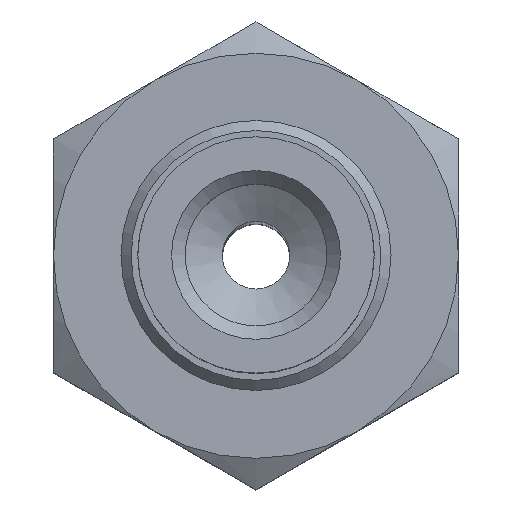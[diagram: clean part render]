
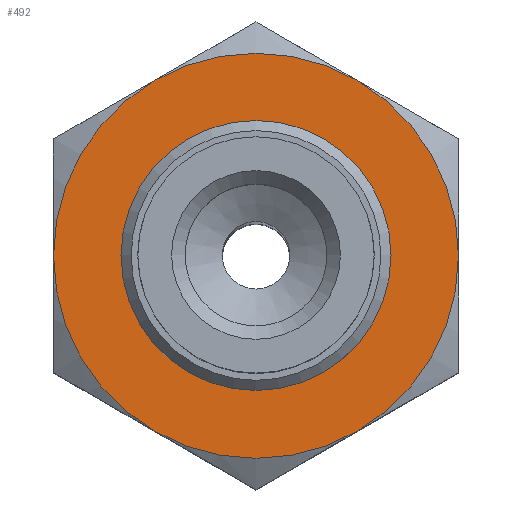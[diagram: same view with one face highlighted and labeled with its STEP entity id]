
A CAD part, top view. The second image highlights one B-rep face of the part: STEP entity #492.
In plain terms, the highlighted planar face has unit normal (0, 0, 1).
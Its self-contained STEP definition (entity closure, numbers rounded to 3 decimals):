
#492=ADVANCED_FACE('',(#705,#706),#707,.T.);
#705=FACE_BOUND('',#1041,.T.);
#706=FACE_OUTER_BOUND('',#1042,.T.);
#707=PLANE('',#1043);
#1041=EDGE_LOOP('',(#1538));
#1042=EDGE_LOOP('',(#1539,#1540,#1541,#1542,#1543,#1544));
#1043=AXIS2_PLACEMENT_3D('',#1545,#1546,#1547);
#1538=ORIENTED_EDGE('',*,*,#2135,.T.);
#1539=ORIENTED_EDGE('',*,*,#2136,.T.);
#1540=ORIENTED_EDGE('',*,*,#2137,.T.);
#1541=ORIENTED_EDGE('',*,*,#2101,.T.);
#1542=ORIENTED_EDGE('',*,*,#2123,.T.);
#1543=ORIENTED_EDGE('',*,*,#2138,.T.);
#1544=ORIENTED_EDGE('',*,*,#2133,.T.);
#1545=CARTESIAN_POINT('',(-6.928,-6.0,3.0));
#1546=DIRECTION('',(0.0,0.0,1.0));
#1547=DIRECTION('',(1.0,0.0,0.0));
#2101=EDGE_CURVE('',#2351,#2342,#2352,.T.);
#2123=EDGE_CURVE('',#2342,#2388,#2390,.T.);
#2133=EDGE_CURVE('',#2366,#2357,#2403,.T.);
#2135=EDGE_CURVE('',#2405,#2405,#2406,.T.);
#2136=EDGE_CURVE('',#2357,#2384,#2407,.T.);
#2137=EDGE_CURVE('',#2384,#2351,#2408,.T.);
#2138=EDGE_CURVE('',#2388,#2366,#2409,.T.);
#2342=VERTEX_POINT('',#2707);
#2351=VERTEX_POINT('',#2729);
#2352=CIRCLE('',#2730,6.0);
#2357=VERTEX_POINT('',#2740);
#2366=VERTEX_POINT('',#2762);
#2384=VERTEX_POINT('',#2806);
#2388=VERTEX_POINT('',#2818);
#2390=CIRCLE('',#2824,6.0);
#2403=CIRCLE('',#2853,6.0);
#2405=VERTEX_POINT('',#2855);
#2406=CIRCLE('',#2856,3.925);
#2407=CIRCLE('',#2857,6.0);
#2408=CIRCLE('',#2858,6.0);
#2409=CIRCLE('',#2859,6.0);
#2707=CARTESIAN_POINT('',(-5.196,3.0,3.0));
#2729=CARTESIAN_POINT('',(0.,6.0,3.0));
#2730=AXIS2_PLACEMENT_3D('',#3316,#3317,#3318);
#2740=CARTESIAN_POINT('',(5.196,-3.0,3.0));
#2762=CARTESIAN_POINT('',(0.,-6.0,3.0));
#2806=CARTESIAN_POINT('',(5.196,3.0,3.0));
#2818=CARTESIAN_POINT('',(-5.196,-3.0,3.0));
#2824=AXIS2_PLACEMENT_3D('',#3329,#3330,#3331);
#2853=AXIS2_PLACEMENT_3D('',#3344,#3345,#3346);
#2855=CARTESIAN_POINT('',(3.925,0.0,3.0));
#2856=AXIS2_PLACEMENT_3D('',#3350,#3351,#3352);
#2857=AXIS2_PLACEMENT_3D('',#3353,#3354,#3355);
#2858=AXIS2_PLACEMENT_3D('',#3356,#3357,#3358);
#2859=AXIS2_PLACEMENT_3D('',#3359,#3360,#3361);
#3316=CARTESIAN_POINT('',(0.,0.0,3.0));
#3317=DIRECTION('',(0.0,0.,1.0));
#3318=DIRECTION('',(0.0,-1.0,0.));
#3329=CARTESIAN_POINT('',(0.,0.0,3.0));
#3330=DIRECTION('',(0.0,0.,1.0));
#3331=DIRECTION('',(0.0,-1.0,0.));
#3344=CARTESIAN_POINT('',(0.,0.0,3.0));
#3345=DIRECTION('',(0.0,0.,1.0));
#3346=DIRECTION('',(0.0,-1.0,0.));
#3350=CARTESIAN_POINT('',(0.0,0.0,3.0));
#3351=DIRECTION('',(0.0,0.0,-1.0));
#3352=DIRECTION('',(1.0,0.0,0.0));
#3353=CARTESIAN_POINT('',(0.,0.0,3.0));
#3354=DIRECTION('',(0.0,0.,1.0));
#3355=DIRECTION('',(0.0,-1.0,0.));
#3356=CARTESIAN_POINT('',(0.,0.0,3.0));
#3357=DIRECTION('',(0.0,0.,1.0));
#3358=DIRECTION('',(0.0,-1.0,0.));
#3359=CARTESIAN_POINT('',(0.,0.0,3.0));
#3360=DIRECTION('',(0.0,0.,1.0));
#3361=DIRECTION('',(0.0,-1.0,0.));
